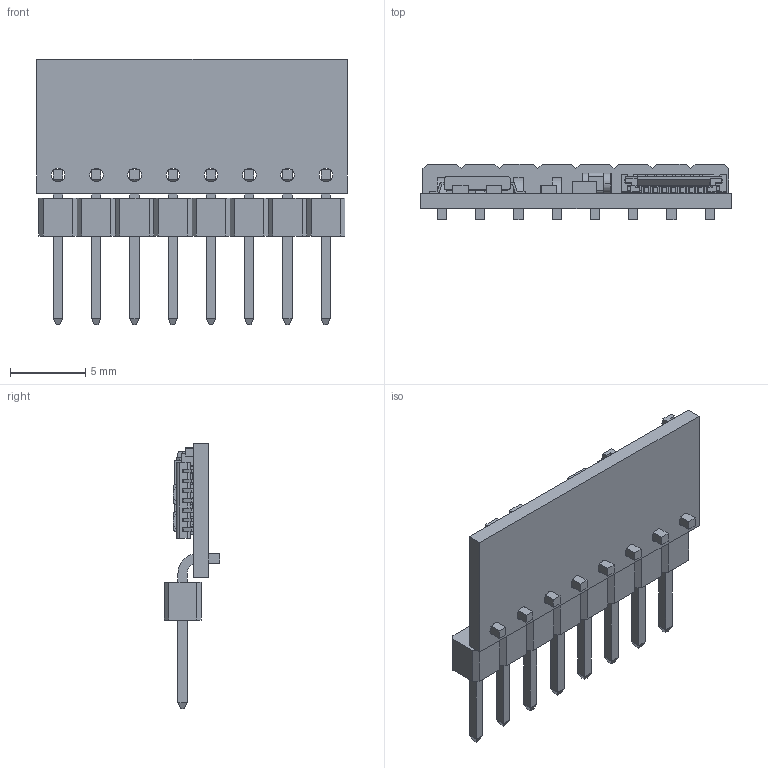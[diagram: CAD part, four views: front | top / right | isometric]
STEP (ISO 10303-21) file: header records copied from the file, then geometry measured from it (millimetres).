
FILE_DESCRIPTION((''),'2;1');
FILE_NAME('6611_00013_ASM','2009-01-14T',('rst'),(''),'PRO/ENGINEER BY PARAMETRIC TECHNOLOGY CORPORATION, 2008090','PRO/ENGINEER BY PARAMETRIC TECHNOLOGY CORPORATION, 2008090','');
FILE_SCHEMA(('CONFIG_CONTROL_DESIGN'));
Length unit declared in the file: millimetre
Products named in the file (9): 810_0129_01; 810_0078_01; TSSOP-14--0_65; GEH_0402; GEH_0603; GEH_MICROMELF-DIODE; STIFTLEISTE_ABGEWINKELT_8PO_AF0; 810_0129_02_ASM; 6611_00013_ASM
Assembly tree (14 placements, depth 3):
  6611_00013_ASM
    810_0129_02_ASM
      810_0129_01
      810_0078_01
      TSSOP-14--0_65
      GEH_0402  x6
      GEH_0603
      GEH_MICROMELF-DIODE  x2
      STIFTLEISTE_ABGEWINKELT_8PO_AF0
Bounding box: 20.6 x 3.7 x 17.65 mm (x, y, z)
Volume: 379.1 mm3; surface area: 1487.1 mm2
Topology: 13 solids, 14 shells, 3289 faces, 9984 edges, 6548 vertices
Faces by surface type: plane 2665, cylinder 624
Entity records: 110265 total; most frequent: CARTESIAN_POINT 20481, ORIENTED_EDGE 19752, DIRECTION 17404, EDGE_CURVE 9876, VECTOR 8546, LINE 8546, VERTEX_POINT 6480, AXIS2_PLACEMENT_3D 4429
